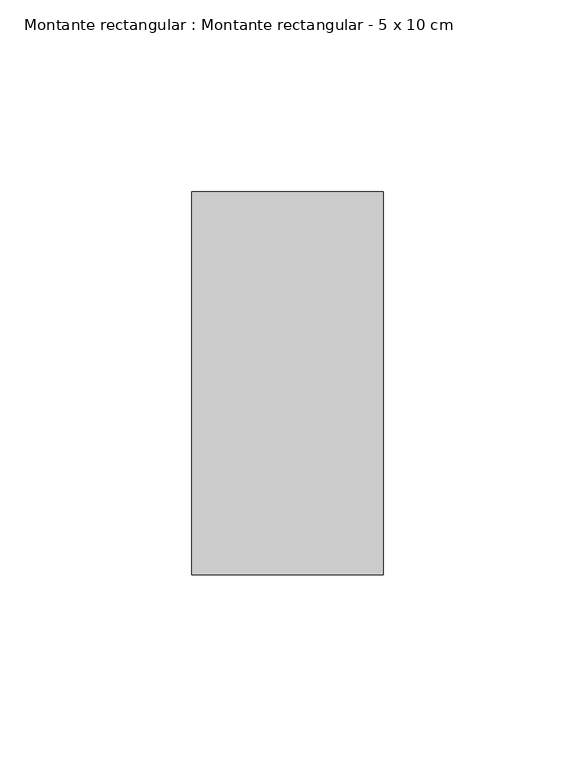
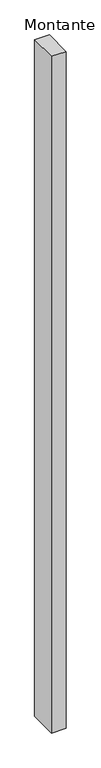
"""IFC4 building model written with IfcOpenShell, lengths in millimetres: member geometry, Montante rectangular : Montante rectangular - 5 x 10 cm."""

import ifcopenshell
import ifcopenshell.guid

model = None  # the IFC model being written
_history = None  # IfcOwnerHistory: only IFC2X3 demands one
_inside = {}  # id of a spatial element -> (the spatial element, [elements in it])
_under = {}  # id of a project, library or spatial element -> (it, [spatial elements below it])
_declared = {}  # id of a project -> (the project, [libraries it declares])
_typed = {}  # id of a type object -> (the type object, [elements of that type])
_made_of = {}  # id of a material, layer set ... -> (it, [elements and type objects made of it])


def new_model(schema):
    """Start an empty IFC model of exactly this schema.

    Asked for "IFC4X3", IfcOpenShell would pick the latest addendum, in which some entities
    have other attributes; the version numbers below select the first issue.
    IFC2X3 requires an IfcOwnerHistory on every rooted entity: one is made here for all.
    """
    global model, _history
    if schema == "IFC4X3":
        model = ifcopenshell.file(schema_version=(4, 3, 0, 0))
    else:
        model = ifcopenshell.file(schema=schema)
    _inside.clear()
    _under.clear()
    _declared.clear()
    _typed.clear()
    _made_of.clear()
    _history = None
    if model.schema == "IFC2X3":
        org = make("IfcOrganization", Name="unknown")
        user = make(
            "IfcPersonAndOrganization",
            ThePerson=make("IfcPerson", FamilyName="unknown"),
            TheOrganization=org,
        )
        app = make(
            "IfcApplication",
            ApplicationDeveloper=org,
            Version="unknown",
            ApplicationFullName="unknown",
            ApplicationIdentifier="unknown",
        )
        _history = make(
            "IfcOwnerHistory",
            OwningUser=user,
            OwningApplication=app,
            ChangeAction="ADDED",
            CreationDate=0,
        )
    return model


def make(cls, **values):
    """One entity of the class cls with the attributes given. An attribute that is None is left unset."""
    return model.create_entity(
        cls, **{name: value for name, value in values.items() if value is not None}
    )


def rooted(cls, **values):
    """An entity with a GlobalId (a new one), such as an element, a storey or a relation."""
    return make(cls, GlobalId=ifcopenshell.guid.new(), OwnerHistory=_history, **values)


def si_unit(unit_type, name, prefix=None):
    """IfcSIUnit, for example si_unit("LENGTHUNIT", "METRE", prefix="MILLI")."""
    return make("IfcSIUnit", UnitType=unit_type, Prefix=prefix, Name=name)


def assignment(units):
    """IfcUnitAssignment: the units of a project."""
    return None if units is None else make("IfcUnitAssignment", Units=units)


def point(xyz):
    """IfcCartesianPoint."""
    return None if xyz is None else make("IfcCartesianPoint", Coordinates=xyz)


def direction(xyz):
    """IfcDirection."""
    return None if xyz is None else make("IfcDirection", DirectionRatios=xyz)


def frame(location, z_axis=None, x_axis=None):
    """IfcAxis2Placement3D, a coordinate frame: its origin and axes. An axis left out is left unset."""
    return make(
        "IfcAxis2Placement3D",
        Location=point(location),
        Axis=direction(z_axis),
        RefDirection=direction(x_axis),
    )


def origin():
    """The frame at (0, 0, 0) with its axes left unset."""
    return frame((0.0, 0.0, 0.0))


def place(relative_to, where):
    """IfcLocalPlacement: puts the frame where relative to a parent placement (None: the world)."""
    return make(
        "IfcLocalPlacement", PlacementRelTo=relative_to, RelativePlacement=where
    )


def context(
    kind, dimensions, precision=None, world=None, true_north=None, identifier=None
):
    """IfcGeometricRepresentationContext, for example the 3D "Model" context."""
    return make(
        "IfcGeometricRepresentationContext",
        ContextIdentifier=identifier,
        ContextType=kind,
        CoordinateSpaceDimension=dimensions,
        Precision=precision,
        WorldCoordinateSystem=world,
        TrueNorth=true_north,
    )


def project(units=None, contexts=None):
    """IfcProject with its units and contexts."""
    return rooted(
        "IfcProject",
        Name="project",
        RepresentationContexts=contexts,
        UnitsInContext=assignment(units),
    )


def spatial(cls, under=None, at=None, **own):
    """A site, building, storey or space (cls), placed at a placement, below another one or the project."""
    s = rooted(cls, ObjectPlacement=at, **own)
    if under is not None:
        _under.setdefault(under.id(), (under, []))[1].append(s)
    return s


def polyline(points):
    """IfcPolyline through the points."""
    return make("IfcPolyline", Points=[point(p) for p in points])


def outline(outer, holes=None, kind="AREA"):
    """IfcArbitraryClosedProfileDef: a profile drawn as a closed curve; with holes, ...WithVoids."""
    if holes is None:
        return make("IfcArbitraryClosedProfileDef", ProfileType=kind, OuterCurve=outer)
    return make(
        "IfcArbitraryProfileDefWithVoids",
        ProfileType=kind,
        OuterCurve=outer,
        InnerCurves=holes,
    )


def extrude(swept, where, along, depth):
    """IfcExtrudedAreaSolid: the profile swept, set in the frame where, extruded along a direction by depth."""
    return make(
        "IfcExtrudedAreaSolid",
        SweptArea=swept,
        Position=where,
        ExtrudedDirection=direction(along),
        Depth=depth,
    )


def shape(context_of_items, identifier, shape_type, items):
    """IfcShapeRepresentation: the items that make up one representation, for example the "Body"."""
    return make(
        "IfcShapeRepresentation",
        ContextOfItems=context_of_items,
        RepresentationIdentifier=identifier,
        RepresentationType=shape_type,
        Items=items,
    )


def source(mapping_origin, context_of_items, identifier, shape_type, items):
    """IfcRepresentationMap: a shape defined once, which mapped items show again and again."""
    return make(
        "IfcRepresentationMap",
        MappingOrigin=mapping_origin,
        MappedRepresentation=shape(context_of_items, identifier, shape_type, items),
    )


def transform(
    local_origin,
    x_axis=None,
    y_axis=None,
    z_axis=None,
    scale=None,
    scale2=None,
    scale3=None,
    uniform=True,
):
    """IfcCartesianTransformationOperator3D, or its non-uniform kind. x_axis, y_axis, z_axis: its Axis1, 2, 3."""
    if uniform:
        return make(
            "IfcCartesianTransformationOperator3D",
            Axis1=direction(x_axis),
            Axis2=direction(y_axis),
            LocalOrigin=point(local_origin),
            Scale=scale,
            Axis3=direction(z_axis),
        )
    return make(
        "IfcCartesianTransformationOperator3DnonUniform",
        Axis1=direction(x_axis),
        Axis2=direction(y_axis),
        LocalOrigin=point(local_origin),
        Scale=scale,
        Axis3=direction(z_axis),
        Scale2=scale2,
        Scale3=scale3,
    )


def mapped(mapping_source, mapping_target):
    """IfcMappedItem: shows the shape of a source again, moved by a transform."""
    return make(
        "IfcMappedItem", MappingSource=mapping_source, MappingTarget=mapping_target
    )


def made_of(thing, what):
    """Note that an element or type object is made of a material, layer set ...; save() writes the relation."""
    if what is not None:
        _made_of.setdefault(what.id(), (what, []))[1].append(thing)
    return thing


def element(
    cls,
    number,
    at=None,
    inside=None,
    cuts=None,
    type_object=None,
    material=None,
    context=None,
    identifier="Body",
    shape_type=None,
    held_by="IfcProductDefinitionShape",
    body=None,
    shapes=None,
    **own,
):
    """One element of the class cls, such as IfcWall. Its Tag is "e" and its number.

    at: its placement. inside: the storey or other place that contains it. cuts: it is an
    opening in that element (IfcRelVoidsElement). A single representation is given by context,
    identifier, shape_type and body (its items); several are given by shapes. held_by: the class
    of the entity that holds the representations. save() writes the other relations.
    """
    e = rooted(cls, Tag="e%d" % number, ObjectPlacement=at, **own)
    if body is not None:
        shapes = [shape(context, identifier, shape_type, body)]
    if shapes is not None:
        e.Representation = make(held_by, Representations=shapes)
    if inside is not None:
        _inside.setdefault(inside.id(), (inside, []))[1].append(e)
    if cuts is not None:
        rooted(
            "IfcRelVoidsElement", RelatingBuildingElement=cuts, RelatedOpeningElement=e
        )
    if type_object is not None:
        _typed.setdefault(type_object.id(), (type_object, []))[1].append(e)
    return made_of(e, material)


def aggregate(whole, parts):
    """IfcRelAggregates: a whole, such as a stair, and the parts it consists of."""
    return rooted("IfcRelAggregates", RelatingObject=whole, RelatedObjects=parts)


def save(model, path):
    """Write the relations noted so far, then the file.

    IfcRelAggregates (storeys below a building ...), IfcRelContainedInSpatialStructure (elements
    in a storey), IfcRelDefinesByType, IfcRelAssociatesMaterial and IfcRelDeclares: one each for
    every whole, place, type object, material and project.
    """
    for whole, parts in _under.values():
        aggregate(whole, parts)
    for where, things in _inside.values():
        rooted(
            "IfcRelContainedInSpatialStructure",
            RelatedElements=things,
            RelatingStructure=where,
        )
    for kind, things in _typed.values():
        rooted("IfcRelDefinesByType", RelatedObjects=things, RelatingType=kind)
    for what, things in _made_of.values():
        rooted("IfcRelAssociatesMaterial", RelatedObjects=things, RelatingMaterial=what)
    for by, libraries in _declared.values():
        rooted("IfcRelDeclares", RelatingContext=by, RelatedDefinitions=libraries)
    model.write(path)


def montante_rectangular_montante_rectangular_5_x_10_cm_f46f2884(model_context):
    return source(origin(), model_context, "Body", "SweptSolid", [
        extrude(outline(polyline([(-50.0, 50.0), (0.0, 50.0), (0.0, -50.0), (-50.0, -50.0), (-50.0, 50.0)])), frame((0.0, 0.0, -2450.0), z_axis=(0.0, 0.0, 1.0), x_axis=(1.0, 0.0, 0.0)), (0.0, 0.0, 1.0), 2450.0),
    ])


if __name__ == "__main__":
    model = new_model("IFC4")
    model_context = context("Model", 3, world=origin())
    ifc_project = project(units=[si_unit("LENGTHUNIT", "METRE", prefix="MILLI")], contexts=[model_context])
    site = spatial("IfcSite", under=ifc_project)
    building = spatial("IfcBuilding", under=site)
    placement = place(None, origin())
    montante_rectangular_montante_rectangular_5_x_10_cm_shape = montante_rectangular_montante_rectangular_5_x_10_cm_f46f2884(model_context)
    element("IfcMember", 1, ObjectType="Montante rectangular : Montante rectangular - 5 x 10 cm", at=placement, inside=building, context=model_context, shape_type="MappedRepresentation", body=[
        mapped(montante_rectangular_montante_rectangular_5_x_10_cm_shape, transform((0.0, 0.0, 0.0), x_axis=(1.0, 0.0, 0.0), y_axis=(0.0, 1.0, 0.0), z_axis=(0.0, 0.0, 1.0))),
    ])
    save(model, "model.ifc")
